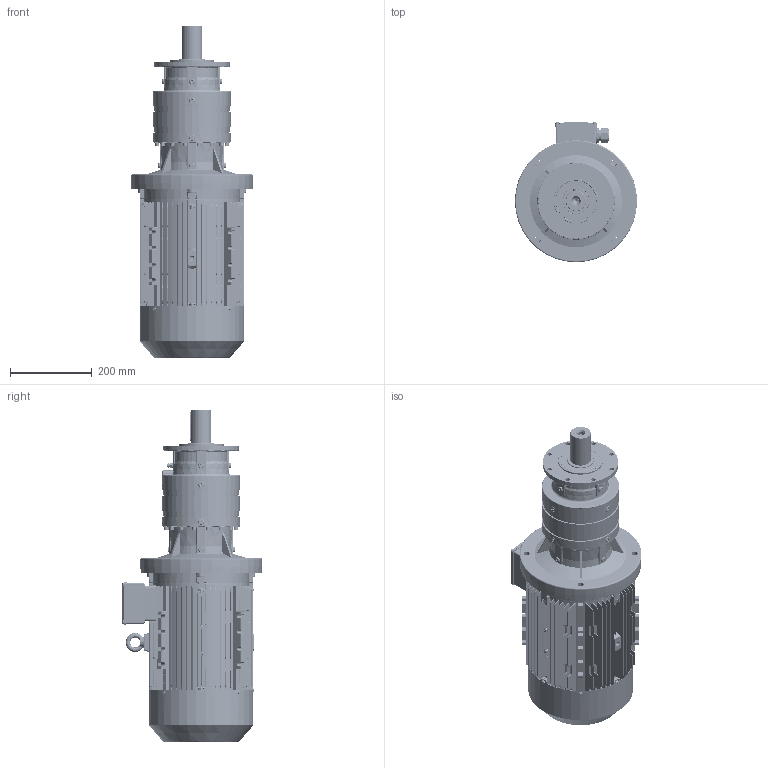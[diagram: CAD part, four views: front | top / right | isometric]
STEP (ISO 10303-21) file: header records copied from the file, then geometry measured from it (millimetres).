
FILE_DESCRIPTION (( 'STEP AP203' ), '1' );
FILE_NAME ('PVL-1102L-MX132M-4.STEP', '2019-05-17T07:09:02', ( '' ), ( '' ), 'SwSTEP 2.0', 'SolidWorks 2012', '' );
FILE_SCHEMA (( 'CONFIG_CONTROL_DESIGN' ));
Length unit declared in the file: millimetre
Products named in the file (28): PVL-1102L-MX132M-4; cross recessed pan head screws gb_GB_CROSS_SCREWS_TYPE1 M5X12-12  H type-N_1; hexagon flange head tapping screws gb_GB_SQUARE_AND_HEXAGON_TYPE137 ST4.2X9.5 C-N; MX3-132M_B5; circlips for shaft--type a large gb_GB_CONNECTING_PIECE_RING_RRA 28; hex nuts, style 1-grades ab gb_GB_FASTENER_NUT_SNAB1 M8-N; hexagon socket head cap screws gb_GB_FASTENER_SCREWS_HSHCS M8X40-N_1; spring lock washers--normal type gb_GB_FASTENER_WASHER_SW 8_1; plain parallel keys_GB_CONNECTING_PIECE_KEYS_CSK 10X70_1; hexagon socket head cap screws gb_GB_FASTENER_SCREWS_HSHCS M8X45-N; eyebolts gb_GB_FASTENER_SCREWS_FRS M10-N_1; 132M B5ﾂ-ｩﾃ; ﾋ-ﾀﾔ40X58X7; 132〩仁佞蹉峔; 132〩仁佞怔; -戌呲25; 132M 俓; 132ÀþiÍ; 132 瞬++-4; deep groove ball bearings gb_Rolling bearings 6308 GB 276-94_1; 132M B5+ｷ+ﾃ; PNL_1102L_0_0_A13_B5_ML7A_FL1A_0_0_0_0_0_0_0_0_0_0_0_M1; 132B3ﾂ-ｩﾃ; 11132B5; FL1A; EK1102L; ML7A; P11
Assembly tree (55 placements, depth 3):
  PVL-1102L-MX132M-4
    PNL_1102L_0_0_A13_B5_ML7A_FL1A_0_0_0_0_0_0_0_0_0_0_0_M1
      P11
      11132B5
      ML7A
      EK1102L
      FL1A
    MX3-132M_B5
      132M B5+ｷ+ﾃ
      132B3ﾂ-ｩﾃ
      132M 俓
      deep groove ball bearings gb_Rolling bearings 6308 GB 276-94_1  x2
      132 瞬++-4
      132ÀþiÍ
      132〩仁佞蹉峔
      132〩仁佞怔
      -戌呲25  x2
      ﾋ-ﾀﾔ40X58X7
      plain parallel keys_GB_CONNECTING_PIECE_KEYS_CSK 10X70_1
      eyebolts gb_GB_FASTENER_SCREWS_FRS M10-N_1
      132M B5ﾂ-ｩﾃ
      hexagon socket head cap screws gb_GB_FASTENER_SCREWS_HSHCS M8X45-N  x4
      spring lock washers--normal type gb_GB_FASTENER_WASHER_SW 8_1  x8
      hex nuts, style 1-grades ab gb_GB_FASTENER_NUT_SNAB1 M8-N  x7
      hexagon socket head cap screws gb_GB_FASTENER_SCREWS_HSHCS M8X40-N_1  x5
      circlips for shaft--type a large gb_GB_CONNECTING_PIECE_RING_RRA 28
      hexagon flange head tapping screws gb_GB_SQUARE_AND_HEXAGON_TYPE137 ST4.2X9.5 C-N  x4
      cross recessed pan head screws gb_GB_CROSS_SCREWS_TYPE1 M5X12-12  H type-N_1  x4
Bounding box: 300 x 345 x 814.62 mm (x, y, z)
Volume: 11261899.8 mm3; surface area: 2499704.5 mm2
Topology: 58 solids, 60 shells, 8875 faces, 22779 edges, 13923 vertices
Faces by surface type: plane 2998, cylinder 2340, bspline 2176, cone 752, torus 471, sphere 138
Entity records: 333567 total; most frequent: CARTESIAN_POINT 149179, ORIENTED_EDGE 41416, DIRECTION 32501, EDGE_CURVE 20708, VERTEX_POINT 12768, AXIS2_PLACEMENT_3D 12039, EDGE_LOOP 8974, LINE 8423
